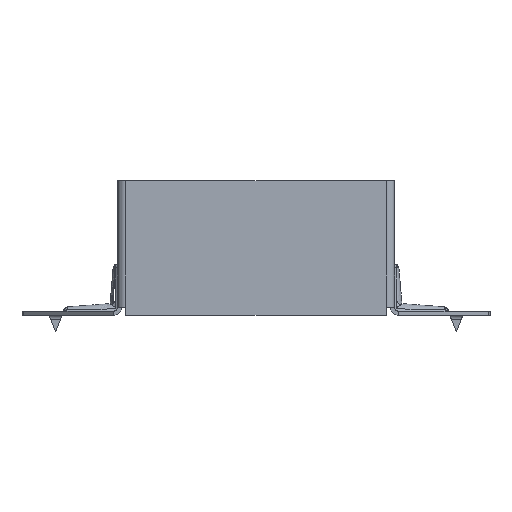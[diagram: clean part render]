
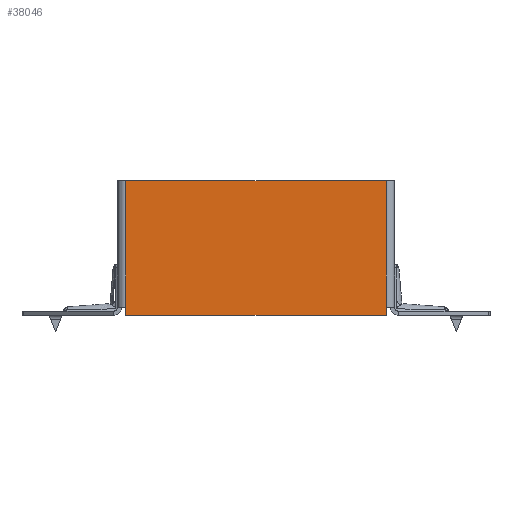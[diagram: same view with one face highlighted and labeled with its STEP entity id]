
A CAD part, front view. The second image highlights one B-rep face of the part: STEP entity #38046.
In plain terms, the highlighted planar face has unit normal (0, -1, 0).
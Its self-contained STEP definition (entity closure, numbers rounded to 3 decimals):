
#499 = EDGE_CURVE ( 'NONE', #21232, #1142, #29761, .T. ) ;
#1081 = VECTOR ( 'NONE', #18018, 1000. ) ;
#1142 = VERTEX_POINT ( 'NONE', #19621 ) ;
#4069 = DIRECTION ( 'NONE',  ( 0., 0., -1. ) ) ;
#4183 = ORIENTED_EDGE ( 'NONE', *, *, #33092, .T. ) ;
#4787 = EDGE_CURVE ( 'NONE', #38566, #21318, #17517, .T. ) ;
#5006 = CARTESIAN_POINT ( 'NONE',  ( -48.5, -70.75, 18. ) ) ;
#5609 = VERTEX_POINT ( 'NONE', #7096 ) ;
#5745 = PLANE ( 'NONE',  #18185 ) ;
#6048 = DIRECTION ( 'NONE',  ( 1., 0., 0. ) ) ;
#6617 = CARTESIAN_POINT ( 'NONE',  ( 48.5, -70.75, -32. ) ) ;
#7096 = CARTESIAN_POINT ( 'NONE',  ( 48.5, -70.75, 18. ) ) ;
#7147 = VECTOR ( 'NONE', #17853, 1000. ) ;
#8087 = CARTESIAN_POINT ( 'NONE',  ( 48.5, -70.75, -29. ) ) ;
#13595 = VECTOR ( 'NONE', #44966, 1000. ) ;
#13937 = CARTESIAN_POINT ( 'NONE',  ( 48.5, -70.75, 3. ) ) ;
#14061 = ORIENTED_EDGE ( 'NONE', *, *, #4787, .F. ) ;
#14813 = VECTOR ( 'NONE', #33174, 1000. ) ;
#16512 = LINE ( 'NONE', #8087, #28810 ) ;
#17517 = LINE ( 'NONE', #27207, #13595 ) ;
#17853 = DIRECTION ( 'NONE',  ( 0., 0., -1. ) ) ;
#18018 = DIRECTION ( 'NONE',  ( -1., 0., 0. ) ) ;
#18185 = AXIS2_PLACEMENT_3D ( 'NONE', #34809, #38580, #6048 ) ;
#18418 = CARTESIAN_POINT ( 'NONE',  ( -48.5, -70.75, -29. ) ) ;
#19621 = CARTESIAN_POINT ( 'NONE',  ( -48.5, -70.75, -32. ) ) ;
#20667 = ORIENTED_EDGE ( 'NONE', *, *, #40444, .F. ) ;
#21232 = VERTEX_POINT ( 'NONE', #6617 ) ;
#21318 = VERTEX_POINT ( 'NONE', #5006 ) ;
#22292 = VERTEX_POINT ( 'NONE', #41752 ) ;
#23941 = LINE ( 'NONE', #13937, #7147 ) ;
#24381 = LINE ( 'NONE', #36631, #14813 ) ;
#24838 = ORIENTED_EDGE ( 'NONE', *, *, #39609, .T. ) ;
#25706 = CARTESIAN_POINT ( 'NONE',  ( -50.75, -70.75, -32. ) ) ;
#25814 = VECTOR ( 'NONE', #4069, 1000. ) ;
#26496 = ORIENTED_EDGE ( 'NONE', *, *, #499, .F. ) ;
#27207 = CARTESIAN_POINT ( 'NONE',  ( -48.5, -70.75, 3. ) ) ;
#28810 = VECTOR ( 'NONE', #36216, 1000. ) ;
#29761 = LINE ( 'NONE', #25706, #1081 ) ;
#32274 = EDGE_CURVE ( 'NONE', #21318, #5609, #24381, .T. ) ;
#33092 = EDGE_CURVE ( 'NONE', #21232, #22292, #16512, .T. ) ;
#33145 = FACE_OUTER_BOUND ( 'NONE', #43714, .T. ) ;
#33174 = DIRECTION ( 'NONE',  ( 1., 0., 0. ) ) ;
#34809 = CARTESIAN_POINT ( 'NONE',  ( -25., -70.75, 3. ) ) ;
#35350 = LINE ( 'NONE', #18418, #25814 ) ;
#36216 = DIRECTION ( 'NONE',  ( 0., 0., 1. ) ) ;
#36631 = CARTESIAN_POINT ( 'NONE',  ( -87., -70.75, 18. ) ) ;
#38046 = ADVANCED_FACE ( 'NONE', ( #33145 ), #5745, .F. ) ;
#38193 = CARTESIAN_POINT ( 'NONE',  ( -48.5, -70.75, -29. ) ) ;
#38566 = VERTEX_POINT ( 'NONE', #38193 ) ;
#38580 = DIRECTION ( 'NONE',  ( 0., 1., 0. ) ) ;
#39609 = EDGE_CURVE ( 'NONE', #38566, #1142, #35350, .T. ) ;
#39700 = ORIENTED_EDGE ( 'NONE', *, *, #32274, .F. ) ;
#40444 = EDGE_CURVE ( 'NONE', #5609, #22292, #23941, .T. ) ;
#41752 = CARTESIAN_POINT ( 'NONE',  ( 48.5, -70.75, -29. ) ) ;
#43714 = EDGE_LOOP ( 'NONE', ( #20667, #39700, #14061, #24838, #26496, #4183 ) ) ;
#44966 = DIRECTION ( 'NONE',  ( 0., 0., 1. ) ) ;
